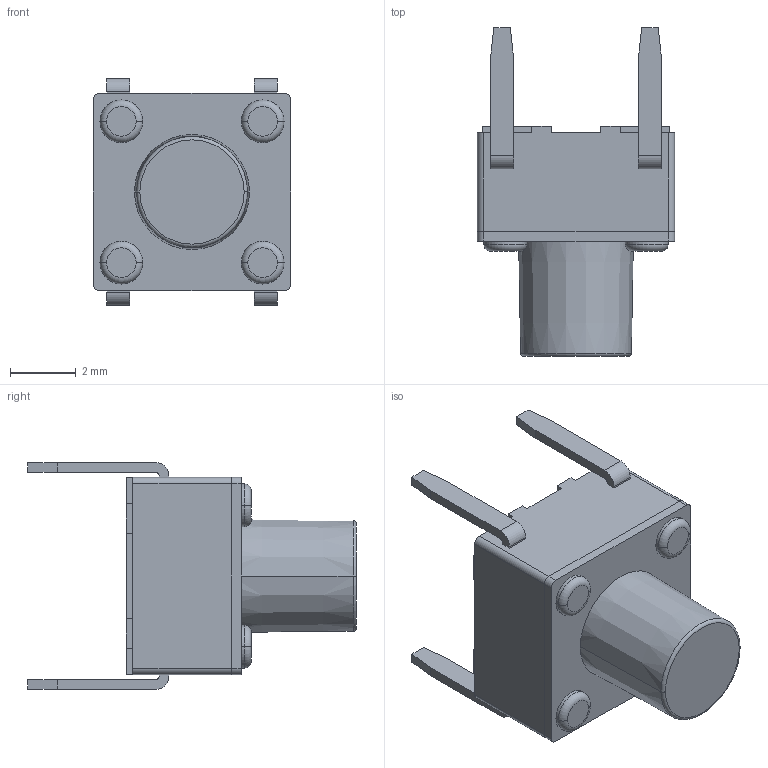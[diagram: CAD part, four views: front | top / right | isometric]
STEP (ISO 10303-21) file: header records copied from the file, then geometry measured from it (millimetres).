
FILE_DESCRIPTION((''),'2;1');
FILE_NAME('JQB6060-C0701-01G-104_ASM','2026-10-17T16:25:35',('Admin'),(''),'CREO PARAMETRIC BY PTC INC, 2019224','CREO PARAMETRIC BY PTC INC, 2019224','');
FILE_SCHEMA(('AUTOMOTIVE_DESIGN { 1 0 10303 214 1 1 1 1 }'));
Length unit declared in the file: millimetre
Products named in the file (3): JQB6060-C0701-01G-104_02; JQB6060-C0701-01G-104_04; JQB6060-C0701-01G-104_ASM
Assembly tree (2 placements, depth 2):
  JQB6060-C0701-01G-104_ASM
    JQB6060-C0701-01G-104_02
    JQB6060-C0701-01G-104_04
Bounding box: 6 x 10 x 6.9 mm (x, y, z)
Volume: 158.4 mm3; surface area: 299.9 mm2
Topology: 2 solids, 2 shells, 135 faces, 354 edges, 246 vertices
Faces by surface type: plane 81, cylinder 42, torus 10, cone 2
Entity records: 5666 total; most frequent: DIRECTION 754, CARTESIAN_POINT 733, ORIENTED_EDGE 688, EDGE_CURVE 344, PRESENTATION_STYLE_ASSIGNMENT 336, STYLED_ITEM 304, CURVE_STYLE 303, AXIS2_PLACEMENT_3D 254
